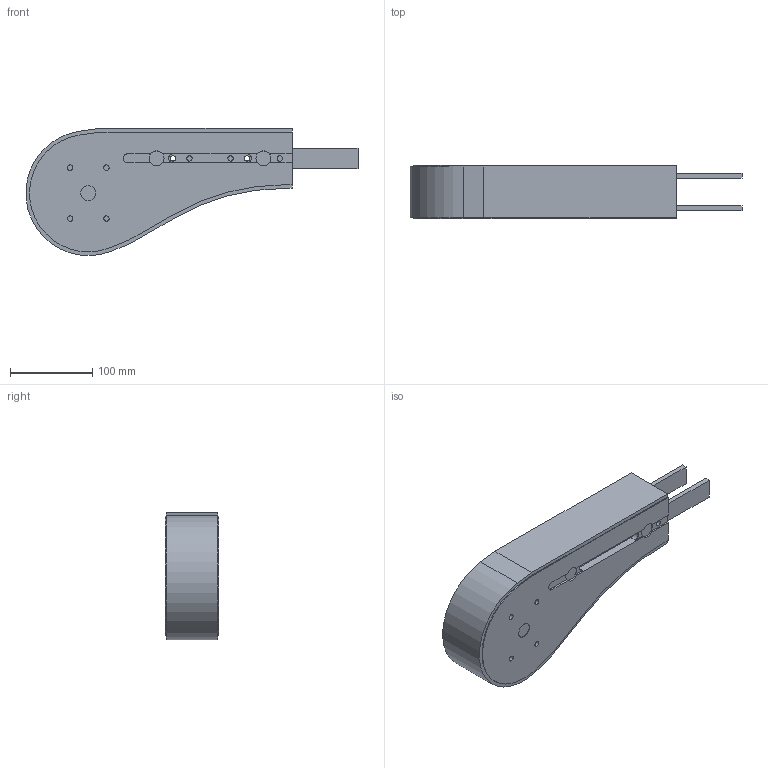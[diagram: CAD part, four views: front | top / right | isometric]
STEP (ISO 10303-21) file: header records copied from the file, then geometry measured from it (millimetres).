
FILE_DESCRIPTION(/* description */ ('Umlenkeinheit FL'),/* implementation_level */ '2;1');
FILE_NAME(/* name */ 'T:\vdz0\Step Daten Website\modulflex FL-System\Umlenkeinheiten\FLEJ 320_MB_73508.stp',/* time_stamp */ '2024-08-22T09:06:08+02:00',/* author */ ('vdz0'),/* organization */ ('modular automation GmbH'),/* preprocessor_version */ 'ST-DEVELOPER v18.1',/* originating_system */ 'Autodesk Inventor 2021',/* authorisation */ '');
FILE_SCHEMA (('CONFIG_CONTROL_DESIGN'));
Length unit declared in the file: millimetre
Products named in the file (1): FLEJ 320_MB
Bounding box: 403.78 x 65 x 154.62 mm (x, y, z)
Volume: 2283235.1 mm3; surface area: 236787 mm2
Topology: 2 solids, 2 shells, 108 faces, 258 edges, 172 vertices
Faces by surface type: plane 74, cylinder 34
Full cylindrical faces by diameter (mm): 6.6 x6, 6.647 x10, 18.3 x6
Entity records: 3320 total; most frequent: DIRECTION 560, CARTESIAN_POINT 539, ORIENTED_EDGE 516, EDGE_CURVE 258, AXIS2_PLACEMENT_3D 193, LINE 174, VECTOR 174, VERTEX_POINT 172
